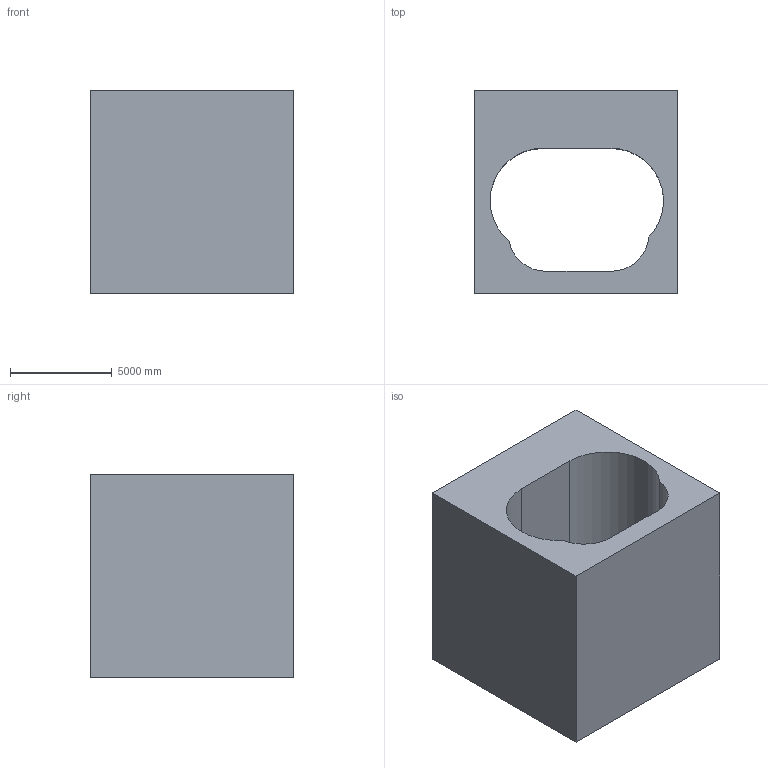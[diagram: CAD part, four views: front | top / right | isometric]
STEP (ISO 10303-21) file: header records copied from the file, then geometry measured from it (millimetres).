
FILE_DESCRIPTION (( 'STEP AP203' ), '1' );
FILE_NAME ('207.STEP', '2022-09-07T12:17:33', ( 'user' ), ( '' ), 'SwSTEP 2.0', 'SolidWorks 2021', '' );
FILE_SCHEMA (( 'CONFIG_CONTROL_DESIGN' ));
Length unit declared in the file: centimetre
Products named in the file (1): 207
Bounding box: 10000 x 10000 x 10000 mm (x, y, z)
Volume: 562454338379 mm3; surface area: 754470842.7 mm2
Topology: 1 solids, 1 shells, 13 faces, 33 edges, 22 vertices
Faces by surface type: plane 8, cylinder 5
Entity records: 478 total; most frequent: DIRECTION 71, CARTESIAN_POINT 69, ORIENTED_EDGE 66, EDGE_CURVE 33, AXIS2_PLACEMENT_3D 24, VECTOR 23, LINE 23, VERTEX_POINT 22
